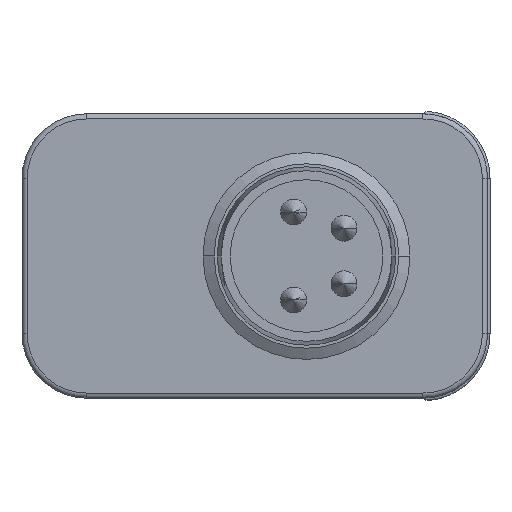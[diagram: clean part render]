
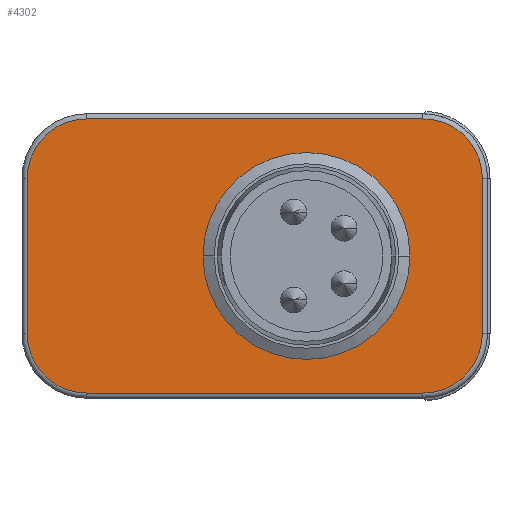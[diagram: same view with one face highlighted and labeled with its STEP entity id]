
A CAD part, left-side view. The second image highlights one B-rep face of the part: STEP entity #4302.
In plain terms, the highlighted planar face has unit normal (-1, 0, 0).
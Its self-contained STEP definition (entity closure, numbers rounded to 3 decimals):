
#84 = EDGE_LOOP ( 'NONE', ( #6270, #3906, #4210, #209, #7776, #6882, #8481, #6042 ) ) ;
#163 = EDGE_CURVE ( 'NONE', #5908, #599, #6005, .T. ) ;
#209 = ORIENTED_EDGE ( 'NONE', *, *, #2784, .T. ) ;
#210 = FACE_OUTER_BOUND ( 'NONE', #84, .T. ) ;
#360 = EDGE_CURVE ( 'NONE', #6100, #400, #4480, .T. ) ;
#378 = LINE ( 'NONE', #4760, #2425 ) ;
#400 = VERTEX_POINT ( 'NONE', #974 ) ;
#599 = VERTEX_POINT ( 'NONE', #3326 ) ;
#667 = CARTESIAN_POINT ( 'NONE',  ( -78.03, -4., 0. ) ) ;
#769 = DIRECTION ( 'NONE',  ( 1., 0., 0. ) ) ;
#810 = DIRECTION ( 'NONE',  ( 0., 1., 0. ) ) ;
#813 = VERTEX_POINT ( 'NONE', #5101 ) ;
#915 = CARTESIAN_POINT ( 'NONE',  ( -78.03, -8.5, 5.3 ) ) ;
#974 = CARTESIAN_POINT ( 'NONE',  ( -78.03, -10.8, -3. ) ) ;
#983 = LINE ( 'NONE', #8440, #7760 ) ;
#986 = DIRECTION ( 'NONE',  ( -1., 0., 0. ) ) ;
#1134 = VERTEX_POINT ( 'NONE', #5755 ) ;
#1156 = EDGE_CURVE ( 'NONE', #4012, #6100, #983, .T. ) ;
#1243 = CIRCLE ( 'NONE', #7462, 2.3 ) ;
#1673 = CARTESIAN_POINT ( 'NONE',  ( -78.03, -8.5, -5.3 ) ) ;
#1705 = EDGE_CURVE ( 'NONE', #1134, #4012, #5684, .T. ) ;
#1834 = DIRECTION ( 'NONE',  ( -1., 0., 0. ) ) ;
#1855 = CIRCLE ( 'NONE', #8468, 4. ) ;
#1889 = DIRECTION ( 'NONE',  ( 0., 0., -1. ) ) ;
#1986 = VERTEX_POINT ( 'NONE', #3328 ) ;
#2052 = DIRECTION ( 'NONE',  ( 0., 0., -1. ) ) ;
#2199 = VECTOR ( 'NONE', #3878, 1000. ) ;
#2255 = DIRECTION ( 'NONE',  ( 0., 0., -1. ) ) ;
#2385 = DIRECTION ( 'NONE',  ( 0., 0., -1. ) ) ;
#2425 = VECTOR ( 'NONE', #7525, 1000. ) ;
#2557 = CARTESIAN_POINT ( 'NONE',  ( -78.03, 6.8, -3. ) ) ;
#2784 = EDGE_CURVE ( 'NONE', #6496, #1134, #4953, .T. ) ;
#3200 = DIRECTION ( 'NONE',  ( -1., 0., 0. ) ) ;
#3300 = EDGE_CURVE ( 'NONE', #6236, #5908, #7117, .T. ) ;
#3326 = CARTESIAN_POINT ( 'NONE',  ( -78.03, 4.5, 5.3 ) ) ;
#3328 = CARTESIAN_POINT ( 'NONE',  ( -78.03, 0., 0. ) ) ;
#3853 = DIRECTION ( 'NONE',  ( 0., 0., -1. ) ) ;
#3878 = DIRECTION ( 'NONE',  ( 0., 0., -1. ) ) ;
#3906 = ORIENTED_EDGE ( 'NONE', *, *, #163, .T. ) ;
#3958 = CARTESIAN_POINT ( 'NONE',  ( -78.03, 4.5, 5.3 ) ) ;
#4012 = VERTEX_POINT ( 'NONE', #7685 ) ;
#4029 = ORIENTED_EDGE ( 'NONE', *, *, #6855, .F. ) ;
#4210 = ORIENTED_EDGE ( 'NONE', *, *, #4335, .T. ) ;
#4239 = CARTESIAN_POINT ( 'NONE',  ( -78.03, 4.5, 3. ) ) ;
#4269 = DIRECTION ( 'NONE',  ( 0., 0., -1. ) ) ;
#4302 = ADVANCED_FACE ( 'NONE', ( #8235, #210 ), #6116, .F. ) ;
#4335 = EDGE_CURVE ( 'NONE', #599, #6496, #1243, .T. ) ;
#4480 = CIRCLE ( 'NONE', #4898, 2.3 ) ;
#4708 = CARTESIAN_POINT ( 'NONE',  ( -78.03, -8.5, 3. ) ) ;
#4760 = CARTESIAN_POINT ( 'NONE',  ( -78.03, -10.8, 3. ) ) ;
#4898 = AXIS2_PLACEMENT_3D ( 'NONE', #8268, #5668, #2385 ) ;
#4903 = DIRECTION ( 'NONE',  ( -1., 0., 0. ) ) ;
#4953 = LINE ( 'NONE', #2557, #2199 ) ;
#5101 = CARTESIAN_POINT ( 'NONE',  ( -78.03, -8., 0. ) ) ;
#5258 = EDGE_CURVE ( 'NONE', #1986, #813, #1855, .T. ) ;
#5398 = AXIS2_PLACEMENT_3D ( 'NONE', #7587, #986, #4269 ) ;
#5522 = AXIS2_PLACEMENT_3D ( 'NONE', #8037, #769, #6793 ) ;
#5668 = DIRECTION ( 'NONE',  ( -1., 0., 0. ) ) ;
#5684 = CIRCLE ( 'NONE', #5398, 2.3 ) ;
#5755 = CARTESIAN_POINT ( 'NONE',  ( -78.03, 6.8, -3. ) ) ;
#5908 = VERTEX_POINT ( 'NONE', #915 ) ;
#6005 = LINE ( 'NONE', #3958, #6847 ) ;
#6042 = ORIENTED_EDGE ( 'NONE', *, *, #7058, .T. ) ;
#6100 = VERTEX_POINT ( 'NONE', #1673 ) ;
#6116 = PLANE ( 'NONE',  #5522 ) ;
#6236 = VERTEX_POINT ( 'NONE', #8058 ) ;
#6270 = ORIENTED_EDGE ( 'NONE', *, *, #3300, .T. ) ;
#6332 = EDGE_LOOP ( 'NONE', ( #6443, #4029 ) ) ;
#6443 = ORIENTED_EDGE ( 'NONE', *, *, #5258, .F. ) ;
#6496 = VERTEX_POINT ( 'NONE', #8115 ) ;
#6590 = DIRECTION ( 'NONE',  ( -1., 0., 0. ) ) ;
#6793 = DIRECTION ( 'NONE',  ( 0., 0., -1. ) ) ;
#6847 = VECTOR ( 'NONE', #810, 1000. ) ;
#6855 = EDGE_CURVE ( 'NONE', #813, #1986, #6952, .T. ) ;
#6882 = ORIENTED_EDGE ( 'NONE', *, *, #1156, .T. ) ;
#6920 = AXIS2_PLACEMENT_3D ( 'NONE', #4708, #3200, #3853 ) ;
#6952 = CIRCLE ( 'NONE', #7400, 4. ) ;
#7058 = EDGE_CURVE ( 'NONE', #400, #6236, #378, .T. ) ;
#7088 = DIRECTION ( 'NONE',  ( 0., -1., 0. ) ) ;
#7117 = CIRCLE ( 'NONE', #6920, 2.3 ) ;
#7147 = CARTESIAN_POINT ( 'NONE',  ( -78.03, -4., 0. ) ) ;
#7400 = AXIS2_PLACEMENT_3D ( 'NONE', #667, #6590, #2052 ) ;
#7462 = AXIS2_PLACEMENT_3D ( 'NONE', #4239, #4903, #2255 ) ;
#7525 = DIRECTION ( 'NONE',  ( 0., 0., 1. ) ) ;
#7587 = CARTESIAN_POINT ( 'NONE',  ( -78.03, 4.5, -3. ) ) ;
#7685 = CARTESIAN_POINT ( 'NONE',  ( -78.03, 4.5, -5.3 ) ) ;
#7760 = VECTOR ( 'NONE', #7088, 1000. ) ;
#7776 = ORIENTED_EDGE ( 'NONE', *, *, #1705, .T. ) ;
#8037 = CARTESIAN_POINT ( 'NONE',  ( -78.03, 7., 5.5 ) ) ;
#8058 = CARTESIAN_POINT ( 'NONE',  ( -78.03, -10.8, 3. ) ) ;
#8115 = CARTESIAN_POINT ( 'NONE',  ( -78.03, 6.8, 3. ) ) ;
#8235 = FACE_BOUND ( 'NONE', #6332, .T. ) ;
#8268 = CARTESIAN_POINT ( 'NONE',  ( -78.03, -8.5, -3. ) ) ;
#8440 = CARTESIAN_POINT ( 'NONE',  ( -78.03, -8.5, -5.3 ) ) ;
#8468 = AXIS2_PLACEMENT_3D ( 'NONE', #7147, #1834, #1889 ) ;
#8481 = ORIENTED_EDGE ( 'NONE', *, *, #360, .T. ) ;
